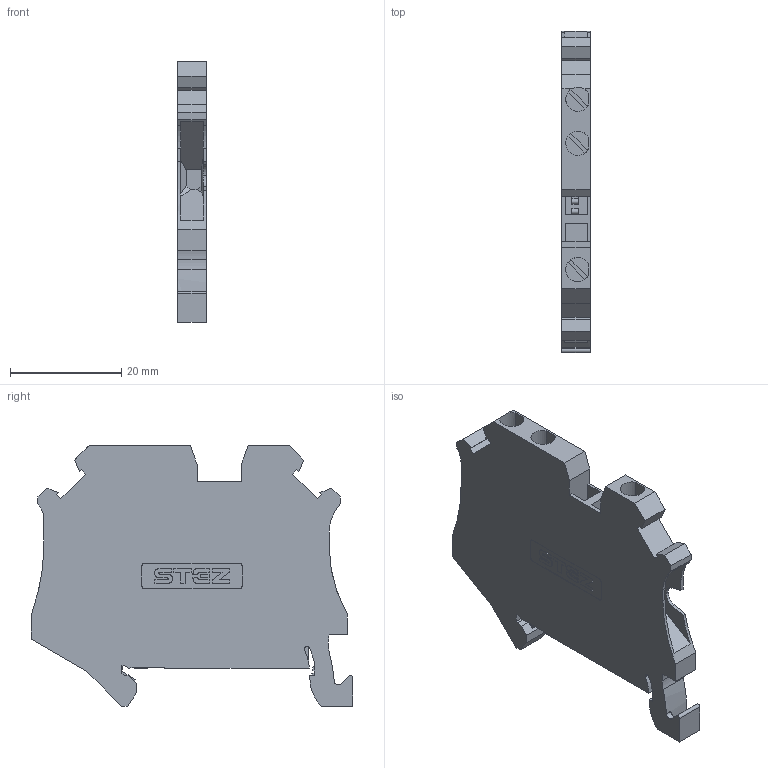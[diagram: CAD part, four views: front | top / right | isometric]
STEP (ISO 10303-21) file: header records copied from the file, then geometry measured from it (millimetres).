
FILE_DESCRIPTION(('TFLEX Exchange Step'),'2;1');
FILE_NAME('11000062_КНВ_2,5-3-PE.stp', '2024-04-25T13:13:38+03:00',('apanin'),('Unknown organisation'),'TFLEX Exchange 2023.2','T-FLEX CAD','Unknown authorisation');
FILE_SCHEMA( ('AUTOMOTIVE_DESIGN { 1 0 10303 214 1 1 1 1 }') );
Length unit declared in the file: millimetre
Products named in the file (1): Тело_1 - UT_2.5-TWIN-PE-select:1
Bounding box: 5.15 x 57.8 x 46.85 mm (x, y, z)
Volume: 8765.1 mm3; surface area: 6585.2 mm2
Topology: 1 solids, 1 shells, 440 faces, 1274 edges, 845 vertices
Faces by surface type: plane 241, cylinder 199
Entity records: 14747 total; most frequent: DIRECTION 2579, CARTESIAN_POINT 2562, ORIENTED_EDGE 2548, EDGE_CURVE 1274, AXIS2_PLACEMENT_3D 865, VECTOR 849, LINE 849, VERTEX_POINT 845
